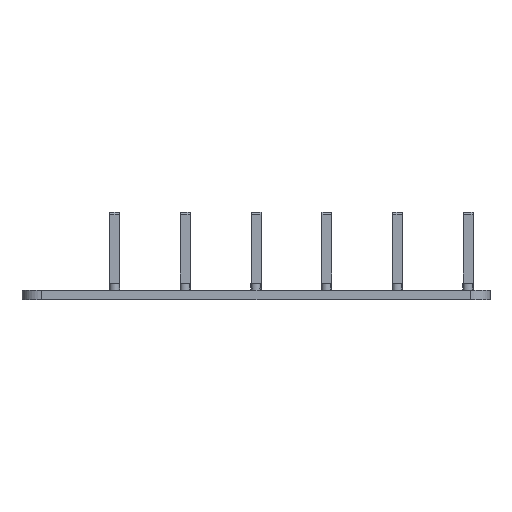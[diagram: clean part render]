
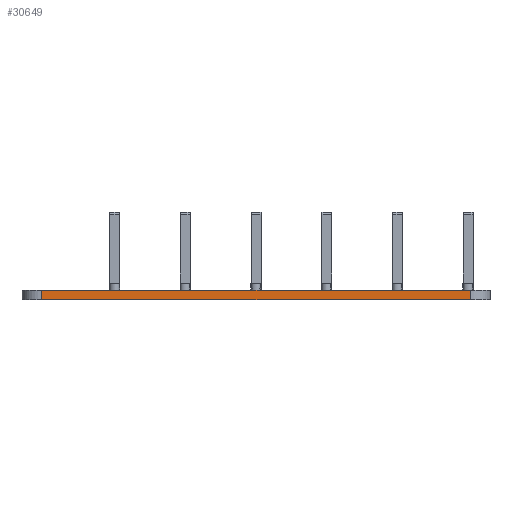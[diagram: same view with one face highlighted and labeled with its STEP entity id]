
A CAD part, left-side view. The second image highlights one B-rep face of the part: STEP entity #30649.
In plain terms, the highlighted planar face has unit normal (-1, 0, 0).
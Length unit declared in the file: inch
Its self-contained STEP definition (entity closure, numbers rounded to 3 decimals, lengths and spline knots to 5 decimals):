
#4262=DIRECTION('',(0.,-1.,0.));
#4263=VECTOR('',#4262,22.);
#4264=CARTESIAN_POINT('',(-24.,11.,0.));
#4265=LINE('',#4264,#4263);
#8631=DIRECTION('',(0.,-1.,0.));
#8632=VECTOR('',#8631,22.);
#8633=CARTESIAN_POINT('',(-24.,11.,0.5));
#8634=LINE('',#8633,#8632);
#12817=DIRECTION('',(0.,0.,-1.));
#12818=VECTOR('',#12817,0.5);
#12819=CARTESIAN_POINT('',(-24.,11.,0.5));
#12820=LINE('',#12819,#12818);
#12824=DIRECTION('',(0.,0.,-1.));
#12825=VECTOR('',#12824,0.5);
#12826=CARTESIAN_POINT('',(-24.,-11.,0.5));
#12827=LINE('',#12826,#12825);
#15067=CARTESIAN_POINT('',(-24.,11.,0.));
#15069=VERTEX_POINT('',#15067);
#15073=CARTESIAN_POINT('',(-24.,11.,0.5));
#15074=VERTEX_POINT('',#15073);
#15076=CARTESIAN_POINT('',(-24.,-11.,0.));
#15078=VERTEX_POINT('',#15076);
#15079=CARTESIAN_POINT('',(-24.,-11.,0.5));
#15080=VERTEX_POINT('',#15079);
#30638=CARTESIAN_POINT('',(-24.,12.,0.));
#30639=DIRECTION('',(-1.,0.,0.));
#30640=DIRECTION('',(0.,-1.,0.));
#30641=AXIS2_PLACEMENT_3D('',#30638,#30639,#30640);
#30642=PLANE('',#30641);
#30643=ORIENTED_EDGE('',*,*,#30506,.F.);
#30644=ORIENTED_EDGE('',*,*,#16667,.T.);
#30645=ORIENTED_EDGE('',*,*,#30624,.T.);
#30646=ORIENTED_EDGE('',*,*,#15106,.F.);
#30647=EDGE_LOOP('',(#30643,#30644,#30645,#30646));
#30648=FACE_OUTER_BOUND('',#30647,.F.);
#15106=EDGE_CURVE('',#15069,#15078,#4265,.T.);
#16667=EDGE_CURVE('',#15074,#15080,#8634,.T.);
#30506=EDGE_CURVE('',#15074,#15069,#12820,.T.);
#30624=EDGE_CURVE('',#15080,#15078,#12827,.T.);
#30649=ADVANCED_FACE('',(#30648),#30642,.T.);
